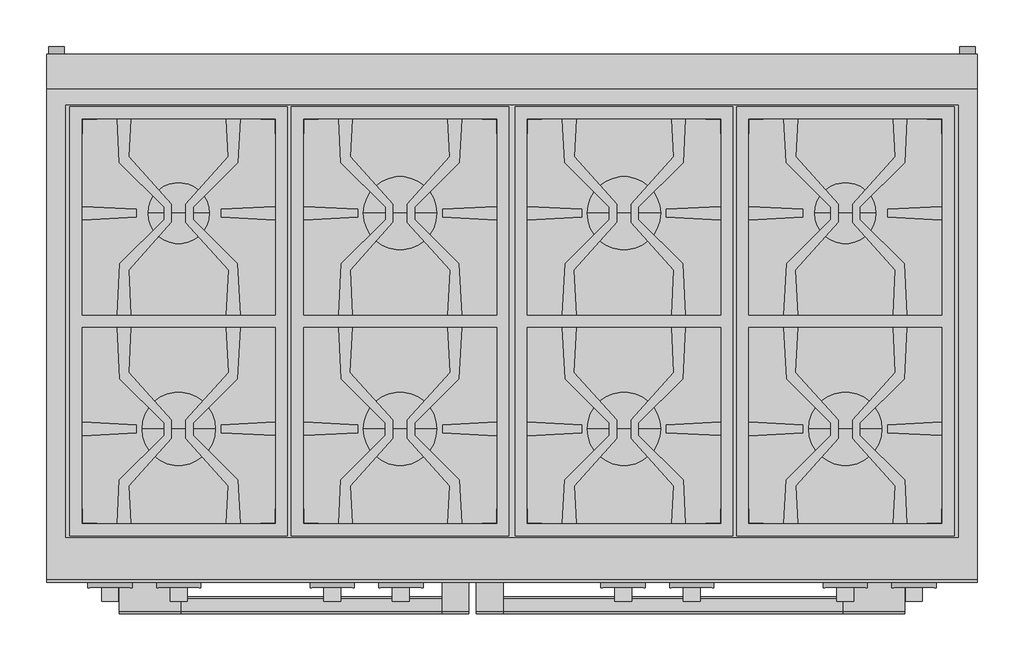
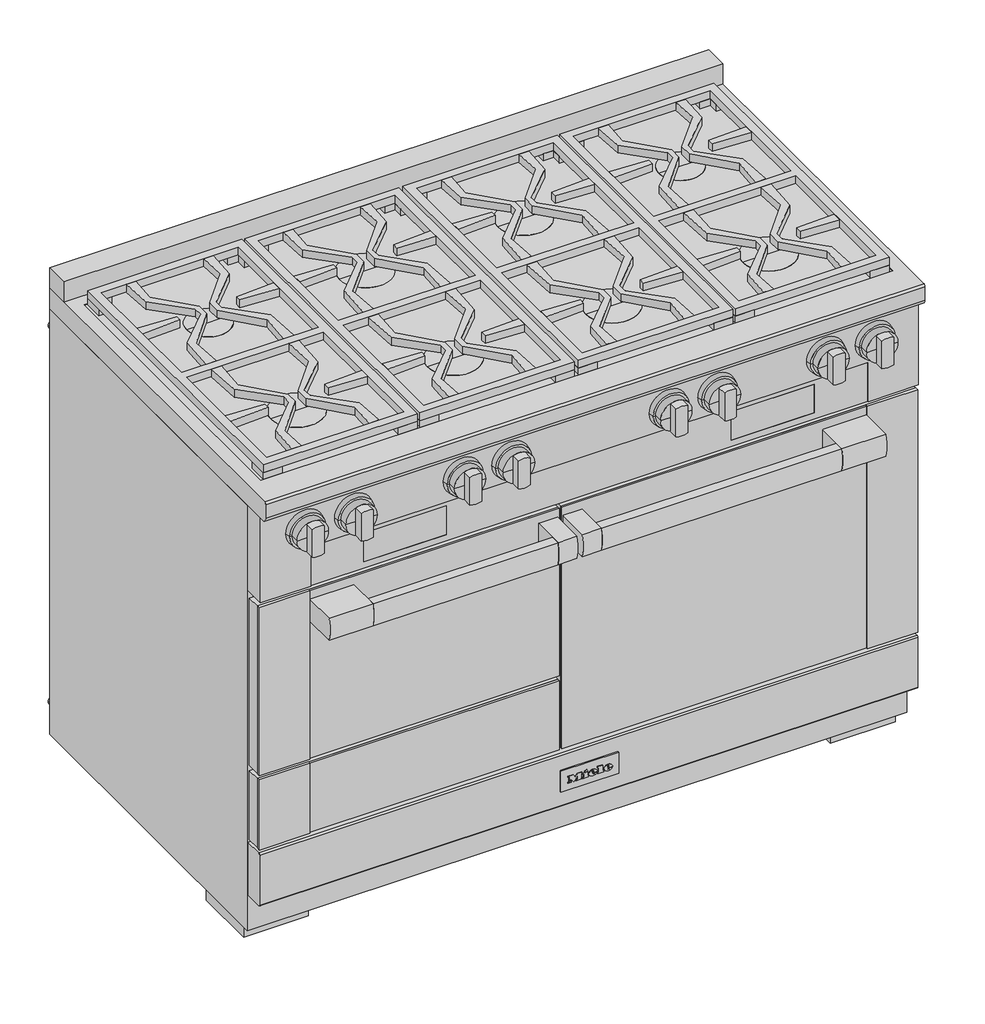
# Not in any storey: 1 proxy.
"""IFC4 building model written with IfcOpenShell, lengths in millimetres."""

from ifc_helpers import new_model, si_unit, origin, place, context, project, spatial, transform, mapped, element, save
from components import specialty_equipment_ac291588, specialty_equipment_3461bd46, specialty_equipment_3d400751

model = new_model("IFC4")

# Units and contexts
model_context = context("Model", 3, world=origin())
ifc_project = project(units=[si_unit("LENGTHUNIT", "METRE", prefix="MILLI")], contexts=[model_context])

# Site, building
site = spatial("IfcSite", under=ifc_project)
building = spatial("IfcBuilding", under=site)

# Proxy
placement = place(None, origin())
specialty_equipment_shape = specialty_equipment_ac291588(model_context)
specialty_equipment_2_shape = specialty_equipment_3461bd46(model_context)
specialty_equipment_3_shape = specialty_equipment_3d400751(model_context)
element("IfcBuildingElementProxy", 1, Name="11791680_USA_HR1954-3LP_EDST-CLS : 25195482_USA_11791680_HR1954-3LP_EDST-CLS", ObjectType="11791680_USA_HR1954-3LP_EDST-CLS : 25195482_USA_11791680_HR1954-3LP_EDST-CLS", at=placement, inside=building, context=model_context, shape_type="MappedRepresentation", body=[
    mapped(specialty_equipment_shape, transform((0.0, 0.0, 0.0), x_axis=(1.0, 0.0, 0.0), y_axis=(0.0, 1.0, 0.0), z_axis=(0.0, 0.0, 1.0))),
    mapped(specialty_equipment_2_shape, transform((0.0, 0.0, 0.0), x_axis=(1.0, 0.0, 0.0), y_axis=(0.0, 1.0, 0.0), z_axis=(0.0, 0.0, 1.0))),
    mapped(specialty_equipment_3_shape, transform((0.0, 0.0, 0.0), x_axis=(1.0, 0.0, 0.0), y_axis=(0.0, 1.0, 0.0), z_axis=(0.0, 0.0, 1.0))),
])

save(model, "model.ifc")
